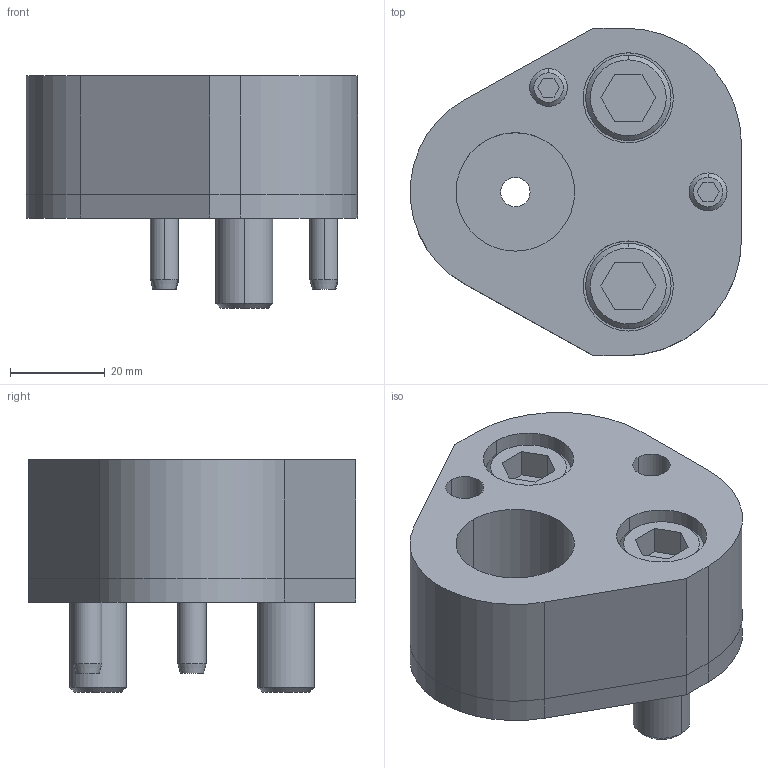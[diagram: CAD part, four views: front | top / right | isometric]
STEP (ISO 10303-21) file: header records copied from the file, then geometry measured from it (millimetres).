
FILE_DESCRIPTION(/* description */ (''),/* implementation_level */ '2;1');
FILE_NAME(/* name */ '3d_25crn-ap25_03131_r00.stp',/* time_stamp */ '2011-01-10T14:17:54+09:00',/* author */ ('MISUMI'),/* organization */ (''),/* preprocessor_version */ 'ST-DEVELOPER v11',/* originating_system */ 'UGS - NX 5.0',/* authorisation */ '');
FILE_SCHEMA (('CONFIG_CONTROL_DESIGN'));
Length unit declared in the file: millimetre
Products named in the file (1): 3d_25crn-ap25_03131_r00
Bounding box: 69.83 x 69.1 x 49 mm (x, y, z)
Volume: 97415.4 mm3; surface area: 32717.1 mm2
Topology: 8 solids, 8 shells, 155 faces, 348 edges, 224 vertices
Faces by surface type: plane 67, cylinder 62, cone 26
Entity records: 4494 total; most frequent: DIRECTION 804, CARTESIAN_POINT 782, ORIENTED_EDGE 696, EDGE_CURVE 348, AXIS2_PLACEMENT_3D 306, VERTEX_POINT 224, LINE 192, VECTOR 192
